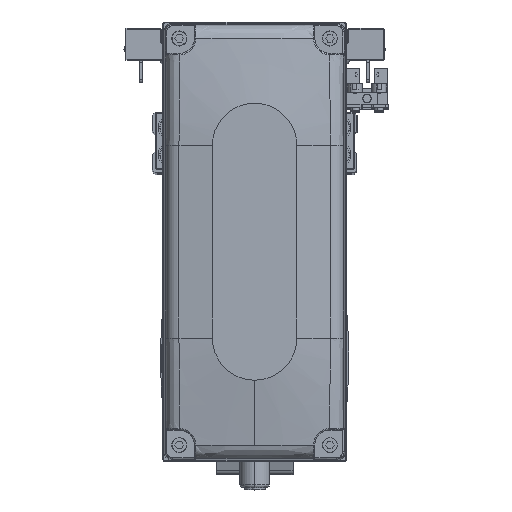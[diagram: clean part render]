
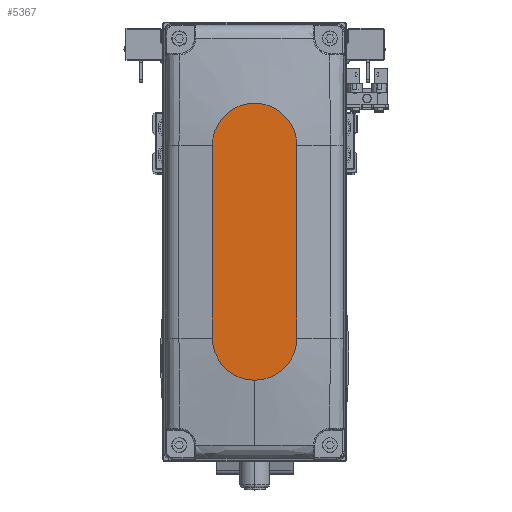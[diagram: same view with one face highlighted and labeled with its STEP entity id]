
A CAD part, top view. The second image highlights one B-rep face of the part: STEP entity #5367.
In plain terms, the highlighted planar face has unit normal (0, 0, 1).
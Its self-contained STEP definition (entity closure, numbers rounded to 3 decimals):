
#1451 = LINE ( 'NONE', #15012, #5580 ) ;
#3475 = CARTESIAN_POINT ( 'NONE',  ( 0., 0., 35. ) ) ;
#4410 = VERTEX_POINT ( 'NONE', #31489 ) ;
#4562 = CARTESIAN_POINT ( 'NONE',  ( 32., -14., 35. ) ) ;
#4973 = CARTESIAN_POINT ( 'NONE',  ( -32., 14., 35. ) ) ;
#5367 = ADVANCED_FACE ( 'NONE', ( #20370 ), #33904, .T. ) ;
#5580 = VECTOR ( 'NONE', #28525, 1000. ) ;
#7004 = DIRECTION ( 'NONE',  ( 1., 0., 0. ) ) ;
#7672 = CARTESIAN_POINT ( 'NONE',  ( 32., 0., 35. ) ) ;
#9165 = ORIENTED_EDGE ( 'NONE', *, *, #35998, .T. ) ;
#9193 = EDGE_CURVE ( 'NONE', #4410, #41446, #14515, .T. ) ;
#9716 = VECTOR ( 'NONE', #24567, 1000. ) ;
#10362 = CARTESIAN_POINT ( 'NONE',  ( 32., 14., 35. ) ) ;
#11016 = CARTESIAN_POINT ( 'NONE',  ( -32., 14., 35. ) ) ;
#11835 = DIRECTION ( 'NONE',  ( 1., 0., 0. ) ) ;
#12945 = ORIENTED_EDGE ( 'NONE', *, *, #26544, .T. ) ;
#12971 = ORIENTED_EDGE ( 'NONE', *, *, #9193, .T. ) ;
#13780 = CIRCLE ( 'NONE', #38560, 14. ) ;
#14515 = CIRCLE ( 'NONE', #39282, 14. ) ;
#15012 = CARTESIAN_POINT ( 'NONE',  ( -32., -14., 35. ) ) ;
#15359 = VERTEX_POINT ( 'NONE', #4973 ) ;
#17037 = DIRECTION ( 'NONE',  ( 0., 0., 1. ) ) ;
#19020 = CIRCLE ( 'NONE', #43779, 14. ) ;
#19628 = EDGE_LOOP ( 'NONE', ( #12945, #9165, #24816, #32210, #12971 ) ) ;
#20370 = FACE_OUTER_BOUND ( 'NONE', #19628, .T. ) ;
#21235 = DIRECTION ( 'NONE',  ( 0., 0., 1. ) ) ;
#23882 = CARTESIAN_POINT ( 'NONE',  ( 32., 0., 35. ) ) ;
#24567 = DIRECTION ( 'NONE',  ( -1., 0., 0. ) ) ;
#24816 = ORIENTED_EDGE ( 'NONE', *, *, #41654, .T. ) ;
#26544 = EDGE_CURVE ( 'NONE', #41446, #15359, #41409, .T. ) ;
#26576 = VERTEX_POINT ( 'NONE', #4562 ) ;
#27682 = VERTEX_POINT ( 'NONE', #43370 ) ;
#28525 = DIRECTION ( 'NONE',  ( 1., 0., 0. ) ) ;
#28682 = CARTESIAN_POINT ( 'NONE',  ( -32., 0., 35. ) ) ;
#29064 = EDGE_CURVE ( 'NONE', #26576, #4410, #19020, .T. ) ;
#30546 = DIRECTION ( 'NONE',  ( 1., 0., 0. ) ) ;
#31489 = CARTESIAN_POINT ( 'NONE',  ( 46., 0., 35. ) ) ;
#32210 = ORIENTED_EDGE ( 'NONE', *, *, #29064, .T. ) ;
#33467 = AXIS2_PLACEMENT_3D ( 'NONE', #3475, #17037, #30546 ) ;
#33904 = PLANE ( 'NONE',  #33467 ) ;
#34758 = DIRECTION ( 'NONE',  ( 1., 0., 0. ) ) ;
#35998 = EDGE_CURVE ( 'NONE', #15359, #27682, #13780, .T. ) ;
#37410 = DIRECTION ( 'NONE',  ( 0., 0., 1. ) ) ;
#38560 = AXIS2_PLACEMENT_3D ( 'NONE', #28682, #42213, #11835 ) ;
#39282 = AXIS2_PLACEMENT_3D ( 'NONE', #7672, #21235, #34758 ) ;
#41409 = LINE ( 'NONE', #11016, #9716 ) ;
#41446 = VERTEX_POINT ( 'NONE', #10362 ) ;
#41654 = EDGE_CURVE ( 'NONE', #27682, #26576, #1451, .T. ) ;
#42213 = DIRECTION ( 'NONE',  ( 0., 0., 1. ) ) ;
#43370 = CARTESIAN_POINT ( 'NONE',  ( -32., -14., 35. ) ) ;
#43779 = AXIS2_PLACEMENT_3D ( 'NONE', #23882, #37410, #7004 ) ;
